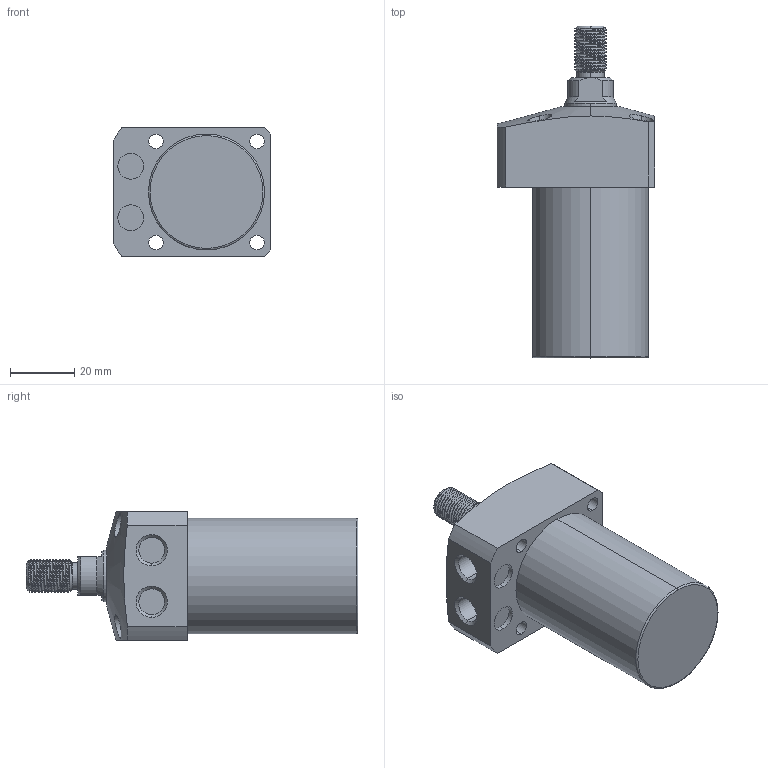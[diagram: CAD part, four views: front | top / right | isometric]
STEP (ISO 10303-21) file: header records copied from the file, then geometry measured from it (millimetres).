
FILE_DESCRIPTION (( 'STEP AP203' ), '1' );
FILE_NAME ('CLL-036CT-045.STEP', '2020-01-08T08:31:45', ( '' ), ( '' ), 'SwSTEP 2.0', 'SolidWorks 2015', '' );
FILE_SCHEMA (( 'CONFIG_CONTROL_DESIGN' ));
Length unit declared in the file: millimetre
Products named in the file (1): CLL-036CT-045
Bounding box: 49 x 103 x 40 mm (x, y, z)
Volume: 96839.2 mm3; surface area: 16665.3 mm2
Topology: 1 solids, 1 shells, 104 faces, 259 edges, 168 vertices
Faces by surface type: cylinder 61, plane 23, cone 16, torus 2, bspline 2
Entity records: 5051 total; most frequent: CARTESIAN_POINT 2632, ORIENTED_EDGE 518, DIRECTION 460, EDGE_CURVE 259, AXIS2_PLACEMENT_3D 185, VERTEX_POINT 168, EDGE_LOOP 123, FACE_OUTER_BOUND 104
